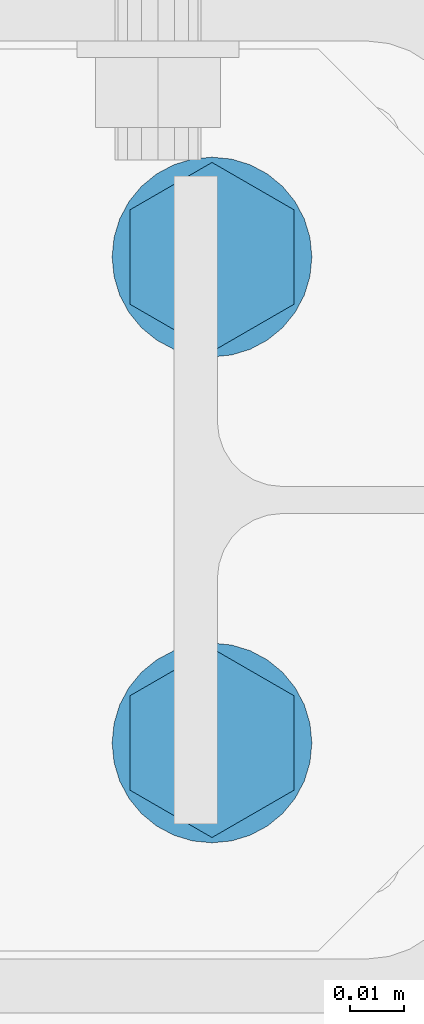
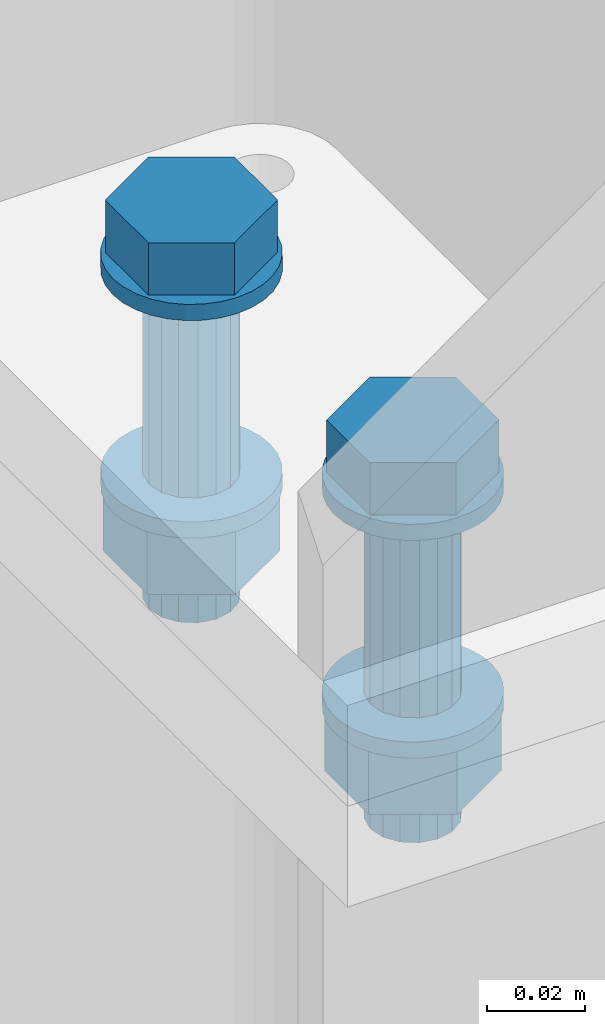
# One storey, part 270 of 825: 1 mechanical fastener.
"""IFC2X3 building model written with IfcOpenShell, lengths in millimetres."""

import ifcopenshell
import ifcopenshell.guid

model = None  # the IFC model being written
_history = None  # IfcOwnerHistory: only IFC2X3 demands one
_inside = {}  # id of a spatial element -> (the spatial element, [elements in it])
_under = {}  # id of a project, library or spatial element -> (it, [spatial elements below it])
_declared = {}  # id of a project -> (the project, [libraries it declares])
_typed = {}  # id of a type object -> (the type object, [elements of that type])
_made_of = {}  # id of a material, layer set ... -> (it, [elements and type objects made of it])


def new_model(schema):
    """Start an empty IFC model of exactly this schema.

    Asked for "IFC4X3", IfcOpenShell would pick the latest addendum, in which some entities
    have other attributes; the version numbers below select the first issue.
    IFC2X3 requires an IfcOwnerHistory on every rooted entity: one is made here for all.
    """
    global model, _history
    if schema == "IFC4X3":
        model = ifcopenshell.file(schema_version=(4, 3, 0, 0))
    else:
        model = ifcopenshell.file(schema=schema)
    _inside.clear()
    _under.clear()
    _declared.clear()
    _typed.clear()
    _made_of.clear()
    _history = None
    if model.schema == "IFC2X3":
        org = make("IfcOrganization", Name="unknown")
        user = make(
            "IfcPersonAndOrganization",
            ThePerson=make("IfcPerson", FamilyName="unknown"),
            TheOrganization=org,
        )
        app = make(
            "IfcApplication",
            ApplicationDeveloper=org,
            Version="unknown",
            ApplicationFullName="unknown",
            ApplicationIdentifier="unknown",
        )
        _history = make(
            "IfcOwnerHistory",
            OwningUser=user,
            OwningApplication=app,
            ChangeAction="ADDED",
            CreationDate=0,
        )
    return model


def make(cls, **values):
    """One entity of the class cls with the attributes given. An attribute that is None is left unset."""
    return model.create_entity(
        cls, **{name: value for name, value in values.items() if value is not None}
    )


def entity(cls, *values):
    """Any entity or typed value of the class cls, its attributes in the order of the schema. None: left unset."""
    e = model.create_entity(cls)
    for i, value in enumerate(values):
        if value is not None:
            e[i] = value
    return e


def rooted(cls, **values):
    """An entity with a GlobalId (a new one), such as an element, a storey or a relation."""
    return make(cls, GlobalId=ifcopenshell.guid.new(), OwnerHistory=_history, **values)


def si_unit(unit_type, name, prefix=None):
    """IfcSIUnit, for example si_unit("LENGTHUNIT", "METRE", prefix="MILLI")."""
    return make("IfcSIUnit", UnitType=unit_type, Prefix=prefix, Name=name)


def converted_unit(unit_type, name, factor, base, dimensions=None, offset=None):
    """IfcConversionBasedUnit, such as the inch: factor (a typed value) times the base unit."""
    return make(
        "IfcConversionBasedUnit"
        if offset is None
        else "IfcConversionBasedUnitWithOffset",
        ConversionOffset=offset,
        Dimensions=None
        if dimensions is None
        else entity("IfcDimensionalExponents", *dimensions),
        UnitType=unit_type,
        Name=name,
        ConversionFactor=make(
            "IfcMeasureWithUnit", ValueComponent=factor, UnitComponent=base
        ),
    )


def assignment(units):
    """IfcUnitAssignment: the units of a project."""
    return None if units is None else make("IfcUnitAssignment", Units=units)


def point(xyz):
    """IfcCartesianPoint."""
    return None if xyz is None else make("IfcCartesianPoint", Coordinates=xyz)


def direction(xyz):
    """IfcDirection."""
    return None if xyz is None else make("IfcDirection", DirectionRatios=xyz)


def frame(location, z_axis=None, x_axis=None):
    """IfcAxis2Placement3D, a coordinate frame: its origin and axes. An axis left out is left unset."""
    return make(
        "IfcAxis2Placement3D",
        Location=point(location),
        Axis=direction(z_axis),
        RefDirection=direction(x_axis),
    )


def origin_with_axes():
    """The frame at (0, 0, 0) with the z axis (0, 0, 1) and the x axis (1, 0, 0) written out."""
    return frame((0.0, 0.0, 0.0), z_axis=(0.0, 0.0, 1.0), x_axis=(1.0, 0.0, 0.0))


def place(relative_to, where):
    """IfcLocalPlacement: puts the frame where relative to a parent placement (None: the world)."""
    return make(
        "IfcLocalPlacement", PlacementRelTo=relative_to, RelativePlacement=where
    )


def context(
    kind, dimensions, precision=None, world=None, true_north=None, identifier=None
):
    """IfcGeometricRepresentationContext, for example the 3D "Model" context."""
    return make(
        "IfcGeometricRepresentationContext",
        ContextIdentifier=identifier,
        ContextType=kind,
        CoordinateSpaceDimension=dimensions,
        Precision=precision,
        WorldCoordinateSystem=world,
        TrueNorth=true_north,
    )


def project(units=None, contexts=None):
    """IfcProject with its units and contexts."""
    return rooted(
        "IfcProject",
        Name="project",
        RepresentationContexts=contexts,
        UnitsInContext=assignment(units),
    )


def spatial(cls, under=None, at=None, **own):
    """A site, building, storey or space (cls), placed at a placement, below another one or the project."""
    s = rooted(cls, ObjectPlacement=at, **own)
    if under is not None:
        _under.setdefault(under.id(), (under, []))[1].append(s)
    return s


def faces_of(points, faces, orient=None, outer=None):
    """IfcFace entities. A face is a list of loops; a loop is a list of indices into points, from 0.

    orient and outer hold one flag for each loop. By default every Orientation is true, the
    first loop of a face is its IfcFaceOuterBound and the others are IfcFaceBound.
    """
    made = []
    for i, loops in enumerate(faces):
        bounds = []
        for j, loop in enumerate(loops):
            is_outer = j == 0 if outer is None else outer[i][j]
            bounds.append(
                make(
                    "IfcFaceOuterBound" if is_outer else "IfcFaceBound",
                    Bound=make("IfcPolyLoop", Polygon=[points[k] for k in loop]),
                    Orientation=True if orient is None else orient[i][j],
                )
            )
        made.append(make("IfcFace", Bounds=bounds))
    return made


def faceted_brep(points, faces, orient=None, outer=None, voids=None):
    """IfcFacetedBrep: a solid bounded by flat faces; with voids (closed shells), ...WithVoids."""
    shared = [point(p) for p in points]
    hull = make("IfcClosedShell", CfsFaces=faces_of(shared, faces, orient, outer))
    if voids is None:
        return make("IfcFacetedBrep", Outer=hull)
    return make(
        "IfcFacetedBrepWithVoids",
        Outer=hull,
        Voids=[
            make(cls, CfsFaces=faces_of(shared, fs, o, b)) for cls, fs, o, b in voids
        ],
    )


def shape(context_of_items, identifier, shape_type, items):
    """IfcShapeRepresentation: the items that make up one representation, for example the "Body"."""
    return make(
        "IfcShapeRepresentation",
        ContextOfItems=context_of_items,
        RepresentationIdentifier=identifier,
        RepresentationType=shape_type,
        Items=items,
    )


def made_of(thing, what):
    """Note that an element or type object is made of a material, layer set ...; save() writes the relation."""
    if what is not None:
        _made_of.setdefault(what.id(), (what, []))[1].append(thing)
    return thing


def element(
    cls,
    number,
    at=None,
    inside=None,
    cuts=None,
    type_object=None,
    material=None,
    context=None,
    identifier="Body",
    shape_type=None,
    held_by="IfcProductDefinitionShape",
    body=None,
    shapes=None,
    **own,
):
    """One element of the class cls, such as IfcWall. Its Tag is "e" and its number.

    at: its placement. inside: the storey or other place that contains it. cuts: it is an
    opening in that element (IfcRelVoidsElement). A single representation is given by context,
    identifier, shape_type and body (its items); several are given by shapes. held_by: the class
    of the entity that holds the representations. save() writes the other relations.
    """
    e = rooted(cls, Tag="e%d" % number, ObjectPlacement=at, **own)
    if body is not None:
        shapes = [shape(context, identifier, shape_type, body)]
    if shapes is not None:
        e.Representation = make(held_by, Representations=shapes)
    if inside is not None:
        _inside.setdefault(inside.id(), (inside, []))[1].append(e)
    if cuts is not None:
        rooted(
            "IfcRelVoidsElement", RelatingBuildingElement=cuts, RelatedOpeningElement=e
        )
    if type_object is not None:
        _typed.setdefault(type_object.id(), (type_object, []))[1].append(e)
    return made_of(e, material)


def aggregate(whole, parts):
    """IfcRelAggregates: a whole, such as a stair, and the parts it consists of."""
    return rooted("IfcRelAggregates", RelatingObject=whole, RelatedObjects=parts)


def save(model, path):
    """Write the relations noted so far, then the file.

    IfcRelAggregates (storeys below a building ...), IfcRelContainedInSpatialStructure (elements
    in a storey), IfcRelDefinesByType, IfcRelAssociatesMaterial and IfcRelDeclares: one each for
    every whole, place, type object, material and project.
    """
    for whole, parts in _under.values():
        aggregate(whole, parts)
    for where, things in _inside.values():
        rooted(
            "IfcRelContainedInSpatialStructure",
            RelatedElements=things,
            RelatingStructure=where,
        )
    for kind, things in _typed.values():
        rooted("IfcRelDefinesByType", RelatedObjects=things, RelatingType=kind)
    for what, things in _made_of.values():
        rooted("IfcRelAssociatesMaterial", RelatedObjects=things, RelatingMaterial=what)
    for by, libraries in _declared.values():
        rooted("IfcRelDeclares", RelatingContext=by, RelatedDefinitions=libraries)
    model.write(path)


model = new_model("IFC2X3")

# Units and contexts
model_context = context("Model", 3, precision=1e-09, world=origin_with_axes())
ifc_project = project(units=[si_unit("LENGTHUNIT", "METRE", prefix="MILLI"), si_unit("AREAUNIT", "SQUARE_METRE"), si_unit("VOLUMEUNIT", "CUBIC_METRE"), converted_unit("PLANEANGLEUNIT", "DEGREE", entity("IfcPlaneAngleMeasure", 0.01745329), si_unit("PLANEANGLEUNIT", "RADIAN"), dimensions=[0, 0, 0, 0, 0, 0, 0])], contexts=[model_context])

# Site, building, storey
site_placement = place(None, origin_with_axes())
site = spatial("IfcSite", under=ifc_project, at=site_placement, Name="Cnopf'sche Kinderklinik", CompositionType="ELEMENT")
building_placement = place(site_placement, origin_with_axes())
building = spatial("IfcBuilding", under=site, at=building_placement, Name="Struktur 1", CompositionType="ELEMENT")
storey_placement = place(building_placement, origin_with_axes())
storey = spatial("IfcBuildingStorey", under=building, at=storey_placement, Name="Default Storey", CompositionType="ELEMENT", Elevation=0.0)

# Mechanical fastener
mechanical_fastener_placement = place(None, origin_with_axes())
element("IfcMechanicalFastener", 1, at=mechanical_fastener_placement, inside=storey, ObjectType="Bolt#1", NominalDiameter=20.0, NominalLength=85.0, context=model_context, shape_type="Brep", body=[
    faceted_brep([(4825.213402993, 4411.736971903, 4175.0), (4825.213402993, 4411.736971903, 4179.0), (4824.857930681, 4408.127800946, 4179.0), (4824.857930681, 4408.127800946, 4175.0), (4823.805174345, 4404.657328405, 4179.0), (4823.805174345, 4404.657328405, 4175.0), (4822.095590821, 4401.458922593, 4179.0), (4822.095590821, 4401.458922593, 4175.0), (4819.794878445, 4398.655496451, 4179.0), (4819.794878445, 4398.655496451, 4175.0), (4816.991452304, 4396.354784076, 4179.0), (4816.991452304, 4396.354784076, 4175.0), (4813.793046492, 4394.645200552, 4179.0), (4813.793046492, 4394.645200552, 4175.0), (4810.32257395, 4393.592444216, 4179.0), (4810.32257395, 4393.592444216, 4175.0), (4806.713402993, 4393.236971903, 4179.0), (4806.713402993, 4393.236971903, 4175.0), (4803.104232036, 4393.592444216, 4179.0), (4803.104232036, 4393.592444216, 4175.0), (4799.633759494, 4394.645200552, 4179.0), (4799.633759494, 4394.645200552, 4175.0), (4796.435353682, 4396.354784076, 4179.0), (4796.435353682, 4396.354784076, 4175.0), (4793.631927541, 4398.655496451, 4179.0), (4793.631927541, 4398.655496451, 4175.0), (4791.331215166, 4401.458922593, 4179.0), (4791.331215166, 4401.458922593, 4175.0), (4789.621631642, 4404.657328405, 4179.0), (4789.621631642, 4404.657328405, 4175.0), (4788.568875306, 4408.127800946, 4179.0), (4788.568875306, 4408.127800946, 4175.0), (4788.213402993, 4411.736971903, 4179.0), (4788.213402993, 4411.736971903, 4175.0), (4788.568875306, 4415.346142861, 4179.0), (4788.568875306, 4415.346142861, 4175.0), (4789.621631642, 4418.816615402, 4179.0), (4789.621631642, 4418.816615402, 4175.0), (4791.331215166, 4422.015021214, 4179.0), (4791.331215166, 4422.015021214, 4175.0), (4793.631927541, 4424.818447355, 4179.0), (4793.631927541, 4424.818447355, 4175.0), (4796.435353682, 4427.119159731, 4179.0), (4796.435353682, 4427.119159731, 4175.0), (4799.633759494, 4428.828743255, 4179.0), (4799.633759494, 4428.828743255, 4175.0), (4803.104232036, 4429.881499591, 4179.0), (4803.104232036, 4429.881499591, 4175.0), (4806.713402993, 4430.236971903, 4179.0), (4806.713402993, 4430.236971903, 4175.0), (4810.32257395, 4429.881499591, 4179.0), (4810.32257395, 4429.881499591, 4175.0), (4813.793046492, 4428.828743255, 4179.0), (4813.793046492, 4428.828743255, 4175.0), (4816.991452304, 4427.119159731, 4179.0), (4816.991452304, 4427.119159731, 4175.0), (4819.794878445, 4424.818447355, 4179.0), (4819.794878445, 4424.818447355, 4175.0), (4822.095590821, 4422.015021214, 4179.0), (4822.095590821, 4422.015021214, 4175.0), (4823.805174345, 4418.816615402, 4179.0), (4823.805174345, 4418.816615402, 4175.0), (4824.857930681, 4415.346142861, 4179.0), (4824.857930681, 4415.346142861, 4175.0)], [[[0, 1, 2, 3]], [[3, 2, 4, 5]], [[5, 4, 6, 7]], [[7, 6, 8, 9]], [[9, 8, 10, 11]], [[11, 10, 12, 13]], [[13, 12, 14, 15]], [[15, 14, 16, 17]], [[17, 16, 18, 19]], [[19, 18, 20, 21]], [[21, 20, 22, 23]], [[23, 22, 24, 25]], [[25, 24, 26, 27]], [[27, 26, 28, 29]], [[29, 28, 30, 31]], [[31, 30, 32, 33]], [[33, 32, 34, 35]], [[35, 34, 36, 37]], [[37, 36, 38, 39]], [[39, 38, 40, 41]], [[41, 40, 42, 43]], [[43, 42, 44, 45]], [[45, 44, 46, 47]], [[47, 46, 48, 49]], [[49, 48, 50, 51]], [[51, 50, 52, 53]], [[53, 52, 54, 55]], [[55, 54, 56, 57]], [[57, 56, 58, 59]], [[59, 58, 60, 61]], [[61, 60, 62, 63]], [[63, 62, 1, 0]], [[2, 1, 62, 60, 58, 56, 54, 52, 50, 48, 46, 44, 42, 40, 38, 36, 34, 32, 30, 28, 26, 24, 22, 20, 18, 16, 14, 12, 10, 8, 6, 4]], [[63, 0, 3, 5, 7, 9, 11, 13, 15, 17, 19, 21, 23, 25, 27, 29, 31, 33, 35, 37, 39, 41, 43, 45, 47, 49, 51, 53, 55, 57, 59, 61]]]),
    faceted_brep([(4825.213402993, 4321.736971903, 4175.0), (4825.213402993, 4321.736971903, 4179.0), (4824.857930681, 4318.127800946, 4179.0), (4824.857930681, 4318.127800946, 4175.0), (4823.805174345, 4314.657328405, 4179.0), (4823.805174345, 4314.657328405, 4175.0), (4822.095590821, 4311.458922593, 4179.0), (4822.095590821, 4311.458922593, 4175.0), (4819.794878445, 4308.655496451, 4179.0), (4819.794878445, 4308.655496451, 4175.0), (4816.991452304, 4306.354784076, 4179.0), (4816.991452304, 4306.354784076, 4175.0), (4813.793046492, 4304.645200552, 4179.0), (4813.793046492, 4304.645200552, 4175.0), (4810.32257395, 4303.592444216, 4179.0), (4810.32257395, 4303.592444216, 4175.0), (4806.713402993, 4303.236971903, 4179.0), (4806.713402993, 4303.236971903, 4175.0), (4803.104232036, 4303.592444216, 4179.0), (4803.104232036, 4303.592444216, 4175.0), (4799.633759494, 4304.645200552, 4179.0), (4799.633759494, 4304.645200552, 4175.0), (4796.435353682, 4306.354784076, 4179.0), (4796.435353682, 4306.354784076, 4175.0), (4793.631927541, 4308.655496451, 4179.0), (4793.631927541, 4308.655496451, 4175.0), (4791.331215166, 4311.458922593, 4179.0), (4791.331215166, 4311.458922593, 4175.0), (4789.621631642, 4314.657328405, 4179.0), (4789.621631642, 4314.657328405, 4175.0), (4788.568875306, 4318.127800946, 4179.0), (4788.568875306, 4318.127800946, 4175.0), (4788.213402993, 4321.736971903, 4179.0), (4788.213402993, 4321.736971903, 4175.0), (4788.568875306, 4325.346142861, 4179.0), (4788.568875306, 4325.346142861, 4175.0), (4789.621631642, 4328.816615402, 4179.0), (4789.621631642, 4328.816615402, 4175.0), (4791.331215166, 4332.015021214, 4179.0), (4791.331215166, 4332.015021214, 4175.0), (4793.631927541, 4334.818447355, 4179.0), (4793.631927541, 4334.818447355, 4175.0), (4796.435353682, 4337.119159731, 4179.0), (4796.435353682, 4337.119159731, 4175.0), (4799.633759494, 4338.828743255, 4179.0), (4799.633759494, 4338.828743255, 4175.0), (4803.104232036, 4339.881499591, 4179.0), (4803.104232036, 4339.881499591, 4175.0), (4806.713402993, 4340.236971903, 4179.0), (4806.713402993, 4340.236971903, 4175.0), (4810.32257395, 4339.881499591, 4179.0), (4810.32257395, 4339.881499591, 4175.0), (4813.793046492, 4338.828743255, 4179.0), (4813.793046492, 4338.828743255, 4175.0), (4816.991452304, 4337.119159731, 4179.0), (4816.991452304, 4337.119159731, 4175.0), (4819.794878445, 4334.818447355, 4179.0), (4819.794878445, 4334.818447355, 4175.0), (4822.095590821, 4332.015021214, 4179.0), (4822.095590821, 4332.015021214, 4175.0), (4823.805174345, 4328.816615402, 4179.0), (4823.805174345, 4328.816615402, 4175.0), (4824.857930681, 4325.346142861, 4179.0), (4824.857930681, 4325.346142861, 4175.0)], [[[0, 1, 2, 3]], [[3, 2, 4, 5]], [[5, 4, 6, 7]], [[7, 6, 8, 9]], [[9, 8, 10, 11]], [[11, 10, 12, 13]], [[13, 12, 14, 15]], [[15, 14, 16, 17]], [[17, 16, 18, 19]], [[19, 18, 20, 21]], [[21, 20, 22, 23]], [[23, 22, 24, 25]], [[25, 24, 26, 27]], [[27, 26, 28, 29]], [[29, 28, 30, 31]], [[31, 30, 32, 33]], [[33, 32, 34, 35]], [[35, 34, 36, 37]], [[37, 36, 38, 39]], [[39, 38, 40, 41]], [[41, 40, 42, 43]], [[43, 42, 44, 45]], [[45, 44, 46, 47]], [[47, 46, 48, 49]], [[49, 48, 50, 51]], [[51, 50, 52, 53]], [[53, 52, 54, 55]], [[55, 54, 56, 57]], [[57, 56, 58, 59]], [[59, 58, 60, 61]], [[61, 60, 62, 63]], [[63, 62, 1, 0]], [[2, 1, 62, 60, 58, 56, 54, 52, 50, 48, 46, 44, 42, 40, 38, 36, 34, 32, 30, 28, 26, 24, 22, 20, 18, 16, 14, 12, 10, 8, 6, 4]], [[63, 0, 3, 5, 7, 9, 11, 13, 15, 17, 19, 21, 23, 25, 27, 29, 31, 33, 35, 37, 39, 41, 43, 45, 47, 49, 51, 53, 55, 57, 59, 61]]]),
    faceted_brep([(4791.544968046, 4402.979471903, 4192.0), (4791.544968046, 4402.979471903, 4179.0), (4806.713402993, 4394.221971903, 4179.0), (4806.713402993, 4394.221971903, 4192.0), (4821.88183794, 4402.979471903, 4179.0), (4821.88183794, 4402.979471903, 4192.0), (4821.88183794, 4420.494471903, 4179.0), (4821.88183794, 4420.494471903, 4192.0), (4806.713402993, 4429.251971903, 4179.0), (4806.713402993, 4429.251971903, 4192.0), (4791.544968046, 4420.494471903, 4179.0), (4791.544968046, 4420.494471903, 4192.0)], [[[0, 1, 2, 3]], [[3, 2, 4, 5]], [[5, 4, 6, 7]], [[7, 6, 8, 9]], [[9, 8, 10, 11]], [[11, 10, 1, 0]], [[3, 5, 7, 9, 11, 0]], [[2, 1, 10, 8, 6, 4]]]),
    faceted_brep([(4791.544968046, 4312.979471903, 4192.0), (4791.544968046, 4312.979471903, 4179.0), (4806.713402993, 4304.221971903, 4179.0), (4806.713402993, 4304.221971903, 4192.0), (4821.88183794, 4312.979471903, 4179.0), (4821.88183794, 4312.979471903, 4192.0), (4821.88183794, 4330.494471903, 4179.0), (4821.88183794, 4330.494471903, 4192.0), (4806.713402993, 4339.251971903, 4179.0), (4806.713402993, 4339.251971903, 4192.0), (4791.544968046, 4330.494471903, 4179.0), (4791.544968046, 4330.494471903, 4192.0)], [[[0, 1, 2, 3]], [[3, 2, 4, 5]], [[5, 4, 6, 7]], [[7, 6, 8, 9]], [[9, 8, 10, 11]], [[11, 10, 1, 0]], [[3, 5, 7, 9, 11, 0]], [[2, 1, 10, 8, 6, 4]]]),
    faceted_brep([(4816.713402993, 4411.736971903, 4125.0), (4816.713402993, 4411.736971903, 4175.0), (4815.952198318, 4407.91013758, 4175.0), (4815.952198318, 4407.91013758, 4125.0), (4813.784470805, 4404.665904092, 4175.0), (4813.784470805, 4404.665904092, 4125.0), (4810.540237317, 4402.498176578, 4175.0), (4810.540237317, 4402.498176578, 4125.0), (4806.713402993, 4401.736971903, 4175.0), (4806.713402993, 4401.736971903, 4125.0), (4802.88656867, 4402.498176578, 4175.0), (4802.88656867, 4402.498176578, 4125.0), (4799.642335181, 4404.665904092, 4175.0), (4799.642335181, 4404.665904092, 4125.0), (4797.474607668, 4407.91013758, 4175.0), (4797.474607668, 4407.91013758, 4125.0), (4796.713402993, 4411.736971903, 4175.0), (4796.713402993, 4411.736971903, 4125.0), (4797.474607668, 4415.563806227, 4175.0), (4797.474607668, 4415.563806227, 4125.0), (4799.642335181, 4418.808039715, 4175.0), (4799.642335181, 4418.808039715, 4125.0), (4802.88656867, 4420.975767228, 4175.0), (4802.88656867, 4420.975767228, 4125.0), (4806.713402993, 4421.736971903, 4175.0), (4806.713402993, 4421.736971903, 4125.0), (4810.540237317, 4420.975767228, 4175.0), (4810.540237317, 4420.975767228, 4125.0), (4813.784470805, 4418.808039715, 4175.0), (4813.784470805, 4418.808039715, 4125.0), (4815.952198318, 4415.563806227, 4175.0), (4815.952198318, 4415.563806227, 4125.0)], [[[0, 1, 2, 3]], [[3, 2, 4, 5]], [[5, 4, 6, 7]], [[7, 6, 8, 9]], [[9, 8, 10, 11]], [[11, 10, 12, 13]], [[13, 12, 14, 15]], [[15, 14, 16, 17]], [[17, 16, 18, 19]], [[19, 18, 20, 21]], [[21, 20, 22, 23]], [[23, 22, 24, 25]], [[25, 24, 26, 27]], [[27, 26, 28, 29]], [[29, 28, 30, 31]], [[31, 30, 1, 0]], [[2, 1, 30, 28, 26, 24, 22, 20, 18, 16, 14, 12, 10, 8, 6, 4]], [[31, 0, 3, 5, 7, 9, 11, 13, 15, 17, 19, 21, 23, 25, 27, 29]]]),
    faceted_brep([(4816.713402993, 4321.736971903, 4125.0), (4816.713402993, 4321.736971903, 4175.0), (4815.952198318, 4317.91013758, 4175.0), (4815.952198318, 4317.91013758, 4125.0), (4813.784470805, 4314.665904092, 4175.0), (4813.784470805, 4314.665904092, 4125.0), (4810.540237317, 4312.498176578, 4175.0), (4810.540237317, 4312.498176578, 4125.0), (4806.713402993, 4311.736971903, 4175.0), (4806.713402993, 4311.736971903, 4125.0), (4802.88656867, 4312.498176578, 4175.0), (4802.88656867, 4312.498176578, 4125.0), (4799.642335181, 4314.665904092, 4175.0), (4799.642335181, 4314.665904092, 4125.0), (4797.474607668, 4317.91013758, 4175.0), (4797.474607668, 4317.91013758, 4125.0), (4796.713402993, 4321.736971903, 4175.0), (4796.713402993, 4321.736971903, 4125.0), (4797.474607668, 4325.563806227, 4175.0), (4797.474607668, 4325.563806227, 4125.0), (4799.642335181, 4328.808039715, 4175.0), (4799.642335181, 4328.808039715, 4125.0), (4802.88656867, 4330.975767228, 4175.0), (4802.88656867, 4330.975767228, 4125.0), (4806.713402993, 4331.736971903, 4175.0), (4806.713402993, 4331.736971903, 4125.0), (4810.540237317, 4330.975767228, 4175.0), (4810.540237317, 4330.975767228, 4125.0), (4813.784470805, 4328.808039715, 4175.0), (4813.784470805, 4328.808039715, 4125.0), (4815.952198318, 4325.563806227, 4175.0), (4815.952198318, 4325.563806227, 4125.0)], [[[0, 1, 2, 3]], [[3, 2, 4, 5]], [[5, 4, 6, 7]], [[7, 6, 8, 9]], [[9, 8, 10, 11]], [[11, 10, 12, 13]], [[13, 12, 14, 15]], [[15, 14, 16, 17]], [[17, 16, 18, 19]], [[19, 18, 20, 21]], [[21, 20, 22, 23]], [[23, 22, 24, 25]], [[25, 24, 26, 27]], [[27, 26, 28, 29]], [[29, 28, 30, 31]], [[31, 30, 1, 0]], [[2, 1, 30, 28, 26, 24, 22, 20, 18, 16, 14, 12, 10, 8, 6, 4]], [[31, 0, 3, 5, 7, 9, 11, 13, 15, 17, 19, 21, 23, 25, 27, 29]]]),
    faceted_brep([(4825.213402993, 4411.736971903, 4121.0), (4825.213402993, 4411.736971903, 4125.0), (4824.857930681, 4408.127800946, 4125.0), (4824.857930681, 4408.127800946, 4121.0), (4823.805174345, 4404.657328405, 4125.0), (4823.805174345, 4404.657328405, 4121.0), (4822.095590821, 4401.458922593, 4125.0), (4822.095590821, 4401.458922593, 4121.0), (4819.794878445, 4398.655496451, 4125.0), (4819.794878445, 4398.655496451, 4121.0), (4816.991452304, 4396.354784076, 4125.0), (4816.991452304, 4396.354784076, 4121.0), (4813.793046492, 4394.645200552, 4125.0), (4813.793046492, 4394.645200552, 4121.0), (4810.32257395, 4393.592444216, 4125.0), (4810.32257395, 4393.592444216, 4121.0), (4806.713402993, 4393.236971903, 4125.0), (4806.713402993, 4393.236971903, 4121.0), (4803.104232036, 4393.592444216, 4125.0), (4803.104232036, 4393.592444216, 4121.0), (4799.633759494, 4394.645200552, 4125.0), (4799.633759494, 4394.645200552, 4121.0), (4796.435353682, 4396.354784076, 4125.0), (4796.435353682, 4396.354784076, 4121.0), (4793.631927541, 4398.655496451, 4125.0), (4793.631927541, 4398.655496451, 4121.0), (4791.331215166, 4401.458922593, 4125.0), (4791.331215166, 4401.458922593, 4121.0), (4789.621631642, 4404.657328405, 4125.0), (4789.621631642, 4404.657328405, 4121.0), (4788.568875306, 4408.127800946, 4125.0), (4788.568875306, 4408.127800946, 4121.0), (4788.213402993, 4411.736971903, 4125.0), (4788.213402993, 4411.736971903, 4121.0), (4788.568875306, 4415.346142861, 4125.0), (4788.568875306, 4415.346142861, 4121.0), (4789.621631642, 4418.816615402, 4125.0), (4789.621631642, 4418.816615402, 4121.0), (4791.331215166, 4422.015021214, 4125.0), (4791.331215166, 4422.015021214, 4121.0), (4793.631927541, 4424.818447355, 4125.0), (4793.631927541, 4424.818447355, 4121.0), (4796.435353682, 4427.119159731, 4125.0), (4796.435353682, 4427.119159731, 4121.0), (4799.633759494, 4428.828743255, 4125.0), (4799.633759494, 4428.828743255, 4121.0), (4803.104232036, 4429.881499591, 4125.0), (4803.104232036, 4429.881499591, 4121.0), (4806.713402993, 4430.236971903, 4125.0), (4806.713402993, 4430.236971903, 4121.0), (4810.32257395, 4429.881499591, 4125.0), (4810.32257395, 4429.881499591, 4121.0), (4813.793046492, 4428.828743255, 4125.0), (4813.793046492, 4428.828743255, 4121.0), (4816.991452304, 4427.119159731, 4125.0), (4816.991452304, 4427.119159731, 4121.0), (4819.794878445, 4424.818447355, 4125.0), (4819.794878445, 4424.818447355, 4121.0), (4822.095590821, 4422.015021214, 4125.0), (4822.095590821, 4422.015021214, 4121.0), (4823.805174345, 4418.816615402, 4125.0), (4823.805174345, 4418.816615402, 4121.0), (4824.857930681, 4415.346142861, 4125.0), (4824.857930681, 4415.346142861, 4121.0)], [[[0, 1, 2, 3]], [[3, 2, 4, 5]], [[5, 4, 6, 7]], [[7, 6, 8, 9]], [[9, 8, 10, 11]], [[11, 10, 12, 13]], [[13, 12, 14, 15]], [[15, 14, 16, 17]], [[17, 16, 18, 19]], [[19, 18, 20, 21]], [[21, 20, 22, 23]], [[23, 22, 24, 25]], [[25, 24, 26, 27]], [[27, 26, 28, 29]], [[29, 28, 30, 31]], [[31, 30, 32, 33]], [[33, 32, 34, 35]], [[35, 34, 36, 37]], [[37, 36, 38, 39]], [[39, 38, 40, 41]], [[41, 40, 42, 43]], [[43, 42, 44, 45]], [[45, 44, 46, 47]], [[47, 46, 48, 49]], [[49, 48, 50, 51]], [[51, 50, 52, 53]], [[53, 52, 54, 55]], [[55, 54, 56, 57]], [[57, 56, 58, 59]], [[59, 58, 60, 61]], [[61, 60, 62, 63]], [[63, 62, 1, 0]], [[2, 1, 62, 60, 58, 56, 54, 52, 50, 48, 46, 44, 42, 40, 38, 36, 34, 32, 30, 28, 26, 24, 22, 20, 18, 16, 14, 12, 10, 8, 6, 4]], [[63, 0, 3, 5, 7, 9, 11, 13, 15, 17, 19, 21, 23, 25, 27, 29, 31, 33, 35, 37, 39, 41, 43, 45, 47, 49, 51, 53, 55, 57, 59, 61]]]),
    faceted_brep([(4825.213402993, 4321.736971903, 4121.0), (4825.213402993, 4321.736971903, 4125.0), (4824.857930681, 4318.127800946, 4125.0), (4824.857930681, 4318.127800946, 4121.0), (4823.805174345, 4314.657328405, 4125.0), (4823.805174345, 4314.657328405, 4121.0), (4822.095590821, 4311.458922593, 4125.0), (4822.095590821, 4311.458922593, 4121.0), (4819.794878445, 4308.655496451, 4125.0), (4819.794878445, 4308.655496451, 4121.0), (4816.991452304, 4306.354784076, 4125.0), (4816.991452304, 4306.354784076, 4121.0), (4813.793046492, 4304.645200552, 4125.0), (4813.793046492, 4304.645200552, 4121.0), (4810.32257395, 4303.592444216, 4125.0), (4810.32257395, 4303.592444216, 4121.0), (4806.713402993, 4303.236971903, 4125.0), (4806.713402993, 4303.236971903, 4121.0), (4803.104232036, 4303.592444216, 4125.0), (4803.104232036, 4303.592444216, 4121.0), (4799.633759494, 4304.645200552, 4125.0), (4799.633759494, 4304.645200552, 4121.0), (4796.435353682, 4306.354784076, 4125.0), (4796.435353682, 4306.354784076, 4121.0), (4793.631927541, 4308.655496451, 4125.0), (4793.631927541, 4308.655496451, 4121.0), (4791.331215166, 4311.458922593, 4125.0), (4791.331215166, 4311.458922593, 4121.0), (4789.621631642, 4314.657328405, 4125.0), (4789.621631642, 4314.657328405, 4121.0), (4788.568875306, 4318.127800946, 4125.0), (4788.568875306, 4318.127800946, 4121.0), (4788.213402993, 4321.736971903, 4125.0), (4788.213402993, 4321.736971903, 4121.0), (4788.568875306, 4325.346142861, 4125.0), (4788.568875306, 4325.346142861, 4121.0), (4789.621631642, 4328.816615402, 4125.0), (4789.621631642, 4328.816615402, 4121.0), (4791.331215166, 4332.015021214, 4125.0), (4791.331215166, 4332.015021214, 4121.0), (4793.631927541, 4334.818447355, 4125.0), (4793.631927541, 4334.818447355, 4121.0), (4796.435353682, 4337.119159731, 4125.0), (4796.435353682, 4337.119159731, 4121.0), (4799.633759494, 4338.828743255, 4125.0), (4799.633759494, 4338.828743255, 4121.0), (4803.104232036, 4339.881499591, 4125.0), (4803.104232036, 4339.881499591, 4121.0), (4806.713402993, 4340.236971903, 4125.0), (4806.713402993, 4340.236971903, 4121.0), (4810.32257395, 4339.881499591, 4125.0), (4810.32257395, 4339.881499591, 4121.0), (4813.793046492, 4338.828743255, 4125.0), (4813.793046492, 4338.828743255, 4121.0), (4816.991452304, 4337.119159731, 4125.0), (4816.991452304, 4337.119159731, 4121.0), (4819.794878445, 4334.818447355, 4125.0), (4819.794878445, 4334.818447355, 4121.0), (4822.095590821, 4332.015021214, 4125.0), (4822.095590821, 4332.015021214, 4121.0), (4823.805174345, 4328.816615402, 4125.0), (4823.805174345, 4328.816615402, 4121.0), (4824.857930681, 4325.346142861, 4125.0), (4824.857930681, 4325.346142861, 4121.0)], [[[0, 1, 2, 3]], [[3, 2, 4, 5]], [[5, 4, 6, 7]], [[7, 6, 8, 9]], [[9, 8, 10, 11]], [[11, 10, 12, 13]], [[13, 12, 14, 15]], [[15, 14, 16, 17]], [[17, 16, 18, 19]], [[19, 18, 20, 21]], [[21, 20, 22, 23]], [[23, 22, 24, 25]], [[25, 24, 26, 27]], [[27, 26, 28, 29]], [[29, 28, 30, 31]], [[31, 30, 32, 33]], [[33, 32, 34, 35]], [[35, 34, 36, 37]], [[37, 36, 38, 39]], [[39, 38, 40, 41]], [[41, 40, 42, 43]], [[43, 42, 44, 45]], [[45, 44, 46, 47]], [[47, 46, 48, 49]], [[49, 48, 50, 51]], [[51, 50, 52, 53]], [[53, 52, 54, 55]], [[55, 54, 56, 57]], [[57, 56, 58, 59]], [[59, 58, 60, 61]], [[61, 60, 62, 63]], [[63, 62, 1, 0]], [[2, 1, 62, 60, 58, 56, 54, 52, 50, 48, 46, 44, 42, 40, 38, 36, 34, 32, 30, 28, 26, 24, 22, 20, 18, 16, 14, 12, 10, 8, 6, 4]], [[63, 0, 3, 5, 7, 9, 11, 13, 15, 17, 19, 21, 23, 25, 27, 29, 31, 33, 35, 37, 39, 41, 43, 45, 47, 49, 51, 53, 55, 57, 59, 61]]]),
    faceted_brep([(4791.124945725, 4402.736971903, 4121.0), (4791.124945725, 4402.736971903, 4105.0), (4806.713402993, 4393.736971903, 4105.0), (4806.713402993, 4393.736971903, 4121.0), (4822.301860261, 4402.736971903, 4105.0), (4822.301860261, 4402.736971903, 4121.0), (4822.301860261, 4420.736971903, 4105.0), (4822.301860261, 4420.736971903, 4121.0), (4806.713402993, 4429.736971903, 4105.0), (4806.713402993, 4429.736971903, 4121.0), (4791.124945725, 4420.736971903, 4105.0), (4791.124945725, 4420.736971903, 4121.0)], [[[0, 1, 2, 3]], [[3, 2, 4, 5]], [[5, 4, 6, 7]], [[7, 6, 8, 9]], [[9, 8, 10, 11]], [[11, 10, 1, 0]], [[3, 5, 7, 9, 11, 0]], [[2, 1, 10, 8, 6, 4]]]),
    faceted_brep([(4791.124945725, 4312.736971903, 4121.0), (4791.124945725, 4312.736971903, 4105.0), (4806.713402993, 4303.736971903, 4105.0), (4806.713402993, 4303.736971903, 4121.0), (4822.301860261, 4312.736971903, 4105.0), (4822.301860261, 4312.736971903, 4121.0), (4822.301860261, 4330.736971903, 4105.0), (4822.301860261, 4330.736971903, 4121.0), (4806.713402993, 4339.736971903, 4105.0), (4806.713402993, 4339.736971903, 4121.0), (4791.124945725, 4330.736971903, 4105.0), (4791.124945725, 4330.736971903, 4121.0)], [[[0, 1, 2, 3]], [[3, 2, 4, 5]], [[5, 4, 6, 7]], [[7, 6, 8, 9]], [[9, 8, 10, 11]], [[11, 10, 1, 0]], [[3, 5, 7, 9, 11, 0]], [[2, 1, 10, 8, 6, 4]]]),
    faceted_brep([(4816.713402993, 4411.736971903, 4094.0), (4816.713402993, 4411.736971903, 4105.0), (4815.952198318, 4407.91013758, 4105.0), (4815.952198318, 4407.91013758, 4094.0), (4813.784470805, 4404.665904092, 4105.0), (4813.784470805, 4404.665904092, 4094.0), (4810.540237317, 4402.498176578, 4105.0), (4810.540237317, 4402.498176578, 4094.0), (4806.713402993, 4401.736971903, 4105.0), (4806.713402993, 4401.736971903, 4094.0), (4802.88656867, 4402.498176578, 4105.0), (4802.88656867, 4402.498176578, 4094.0), (4799.642335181, 4404.665904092, 4105.0), (4799.642335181, 4404.665904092, 4094.0), (4797.474607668, 4407.91013758, 4105.0), (4797.474607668, 4407.91013758, 4094.0), (4796.713402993, 4411.736971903, 4105.0), (4796.713402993, 4411.736971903, 4094.0), (4797.474607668, 4415.563806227, 4105.0), (4797.474607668, 4415.563806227, 4094.0), (4799.642335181, 4418.808039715, 4105.0), (4799.642335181, 4418.808039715, 4094.0), (4802.88656867, 4420.975767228, 4105.0), (4802.88656867, 4420.975767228, 4094.0), (4806.713402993, 4421.736971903, 4105.0), (4806.713402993, 4421.736971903, 4094.0), (4810.540237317, 4420.975767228, 4105.0), (4810.540237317, 4420.975767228, 4094.0), (4813.784470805, 4418.808039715, 4105.0), (4813.784470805, 4418.808039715, 4094.0), (4815.952198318, 4415.563806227, 4105.0), (4815.952198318, 4415.563806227, 4094.0)], [[[0, 1, 2, 3]], [[3, 2, 4, 5]], [[5, 4, 6, 7]], [[7, 6, 8, 9]], [[9, 8, 10, 11]], [[11, 10, 12, 13]], [[13, 12, 14, 15]], [[15, 14, 16, 17]], [[17, 16, 18, 19]], [[19, 18, 20, 21]], [[21, 20, 22, 23]], [[23, 22, 24, 25]], [[25, 24, 26, 27]], [[27, 26, 28, 29]], [[29, 28, 30, 31]], [[31, 30, 1, 0]], [[2, 1, 30, 28, 26, 24, 22, 20, 18, 16, 14, 12, 10, 8, 6, 4]], [[31, 0, 3, 5, 7, 9, 11, 13, 15, 17, 19, 21, 23, 25, 27, 29]]]),
    faceted_brep([(4816.713402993, 4321.736971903, 4094.0), (4816.713402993, 4321.736971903, 4105.0), (4815.952198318, 4317.91013758, 4105.0), (4815.952198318, 4317.91013758, 4094.0), (4813.784470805, 4314.665904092, 4105.0), (4813.784470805, 4314.665904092, 4094.0), (4810.540237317, 4312.498176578, 4105.0), (4810.540237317, 4312.498176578, 4094.0), (4806.713402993, 4311.736971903, 4105.0), (4806.713402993, 4311.736971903, 4094.0), (4802.88656867, 4312.498176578, 4105.0), (4802.88656867, 4312.498176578, 4094.0), (4799.642335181, 4314.665904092, 4105.0), (4799.642335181, 4314.665904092, 4094.0), (4797.474607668, 4317.91013758, 4105.0), (4797.474607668, 4317.91013758, 4094.0), (4796.713402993, 4321.736971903, 4105.0), (4796.713402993, 4321.736971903, 4094.0), (4797.474607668, 4325.563806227, 4105.0), (4797.474607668, 4325.563806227, 4094.0), (4799.642335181, 4328.808039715, 4105.0), (4799.642335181, 4328.808039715, 4094.0), (4802.88656867, 4330.975767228, 4105.0), (4802.88656867, 4330.975767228, 4094.0), (4806.713402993, 4331.736971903, 4105.0), (4806.713402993, 4331.736971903, 4094.0), (4810.540237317, 4330.975767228, 4105.0), (4810.540237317, 4330.975767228, 4094.0), (4813.784470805, 4328.808039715, 4105.0), (4813.784470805, 4328.808039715, 4094.0), (4815.952198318, 4325.563806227, 4105.0), (4815.952198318, 4325.563806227, 4094.0)], [[[0, 1, 2, 3]], [[3, 2, 4, 5]], [[5, 4, 6, 7]], [[7, 6, 8, 9]], [[9, 8, 10, 11]], [[11, 10, 12, 13]], [[13, 12, 14, 15]], [[15, 14, 16, 17]], [[17, 16, 18, 19]], [[19, 18, 20, 21]], [[21, 20, 22, 23]], [[23, 22, 24, 25]], [[25, 24, 26, 27]], [[27, 26, 28, 29]], [[29, 28, 30, 31]], [[31, 30, 1, 0]], [[2, 1, 30, 28, 26, 24, 22, 20, 18, 16, 14, 12, 10, 8, 6, 4]], [[31, 0, 3, 5, 7, 9, 11, 13, 15, 17, 19, 21, 23, 25, 27, 29]]]),
])

save(model, "model.ifc")
